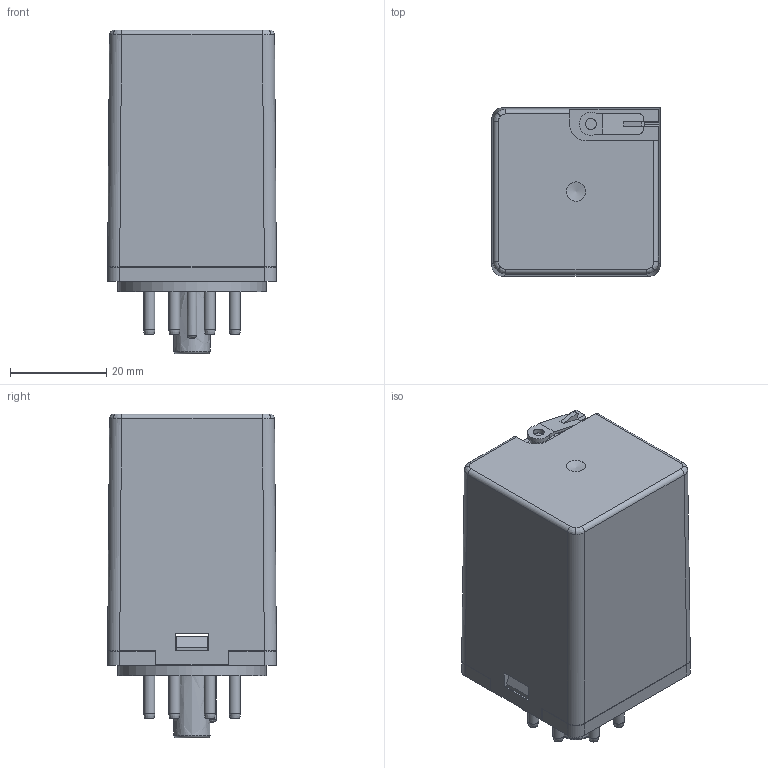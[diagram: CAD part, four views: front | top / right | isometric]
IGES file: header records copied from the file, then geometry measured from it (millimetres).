
Global section: file name: G08; native system: Autodesk Inventor 2020; preprocessor: unknown; date: 20210603.131724; units: millimetre
Bounding box: 35.05 x 35.05 x 67.2 mm (x, y, z)
Volume: 16933.6 mm3; surface area: 22921 mm2
Topology: 11 solids, 11 shells, 464 faces, 1284 edges, 858 vertices
Faces by surface type: bspline 464
